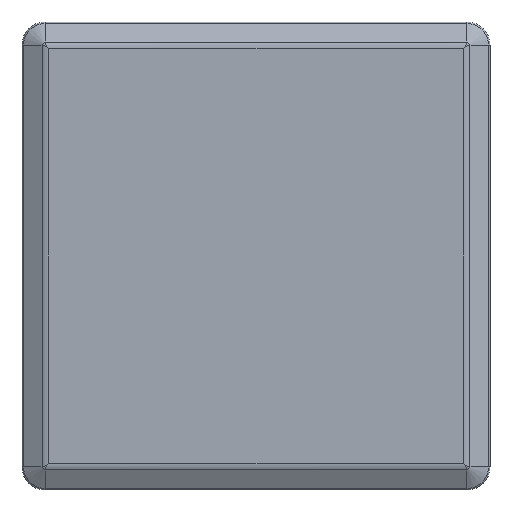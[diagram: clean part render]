
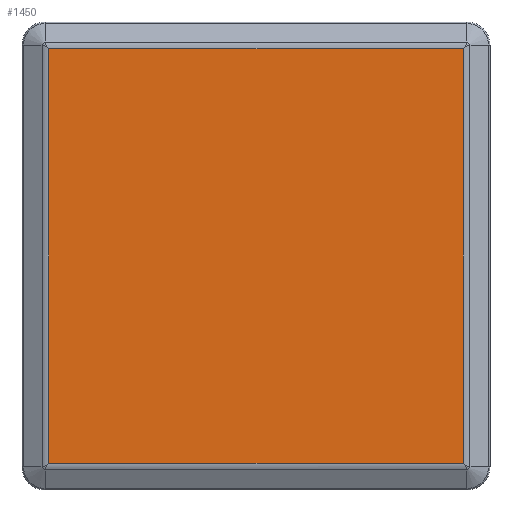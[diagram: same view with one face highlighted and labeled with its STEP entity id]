
A CAD part, front view. The second image highlights one B-rep face of the part: STEP entity #1450.
In plain terms, the highlighted planar face has unit normal (0, -1, 0).
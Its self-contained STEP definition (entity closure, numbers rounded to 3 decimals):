
#1 = EDGE_LOOP ( 'NONE', ( #1777, #1122, #3660, #3644 ) ) ;
#151 = VECTOR ( 'NONE', #1024, 1000. ) ;
#169 = AXIS2_PLACEMENT_3D ( 'NONE', #2810, #3412, #1553 ) ;
#203 = VERTEX_POINT ( 'NONE', #1168 ) ;
#238 = VECTOR ( 'NONE', #2210, 1000. ) ;
#344 = LINE ( 'NONE', #1272, #1901 ) ;
#388 = CARTESIAN_POINT ( 'NONE',  ( -31.464, 0., -31.464 ) ) ;
#408 = DIRECTION ( 'NONE',  ( -1., 0., 0. ) ) ;
#955 = CARTESIAN_POINT ( 'NONE',  ( 31.464, 0., 32. ) ) ;
#962 = LINE ( 'NONE', #1961, #2728 ) ;
#1024 = DIRECTION ( 'NONE',  ( 0., 0., 1. ) ) ;
#1030 = CARTESIAN_POINT ( 'NONE',  ( -31.464, 0., 31.464 ) ) ;
#1122 = ORIENTED_EDGE ( 'NONE', *, *, #1517, .T. ) ;
#1168 = CARTESIAN_POINT ( 'NONE',  ( 31.464, 0., -31.464 ) ) ;
#1252 = VERTEX_POINT ( 'NONE', #1310 ) ;
#1272 = CARTESIAN_POINT ( 'NONE',  ( -31.464, 0., 32. ) ) ;
#1310 = CARTESIAN_POINT ( 'NONE',  ( 31.464, 0., 31.464 ) ) ;
#1345 = PLANE ( 'NONE',  #169 ) ;
#1442 = VERTEX_POINT ( 'NONE', #1030 ) ;
#1450 = ADVANCED_FACE ( 'NONE', ( #3801 ), #1345, .T. ) ;
#1512 = EDGE_CURVE ( 'NONE', #1442, #3617, #344, .T. ) ;
#1517 = EDGE_CURVE ( 'NONE', #3617, #203, #2085, .T. ) ;
#1553 = DIRECTION ( 'NONE',  ( 0., 0., -1. ) ) ;
#1563 = EDGE_CURVE ( 'NONE', #203, #1252, #3442, .T. ) ;
#1578 = EDGE_CURVE ( 'NONE', #1252, #1442, #962, .T. ) ;
#1777 = ORIENTED_EDGE ( 'NONE', *, *, #1512, .T. ) ;
#1901 = VECTOR ( 'NONE', #3143, 1000. ) ;
#1961 = CARTESIAN_POINT ( 'NONE',  ( -32., 0., 31.464 ) ) ;
#2085 = LINE ( 'NONE', #2839, #238 ) ;
#2210 = DIRECTION ( 'NONE',  ( 1., 0., 0. ) ) ;
#2728 = VECTOR ( 'NONE', #408, 1000. ) ;
#2810 = CARTESIAN_POINT ( 'NONE',  ( -32., 0., 32. ) ) ;
#2839 = CARTESIAN_POINT ( 'NONE',  ( -32., 0., -31.464 ) ) ;
#3143 = DIRECTION ( 'NONE',  ( 0., 0., -1. ) ) ;
#3412 = DIRECTION ( 'NONE',  ( 0., -1., 0. ) ) ;
#3442 = LINE ( 'NONE', #955, #151 ) ;
#3617 = VERTEX_POINT ( 'NONE', #388 ) ;
#3644 = ORIENTED_EDGE ( 'NONE', *, *, #1578, .T. ) ;
#3660 = ORIENTED_EDGE ( 'NONE', *, *, #1563, .T. ) ;
#3801 = FACE_OUTER_BOUND ( 'NONE', #1, .T. ) ;
